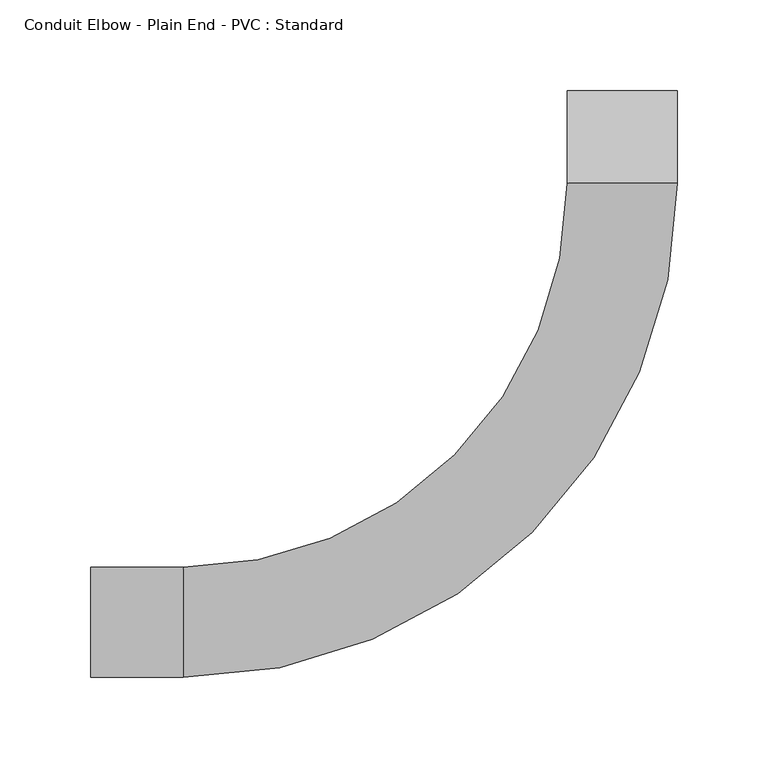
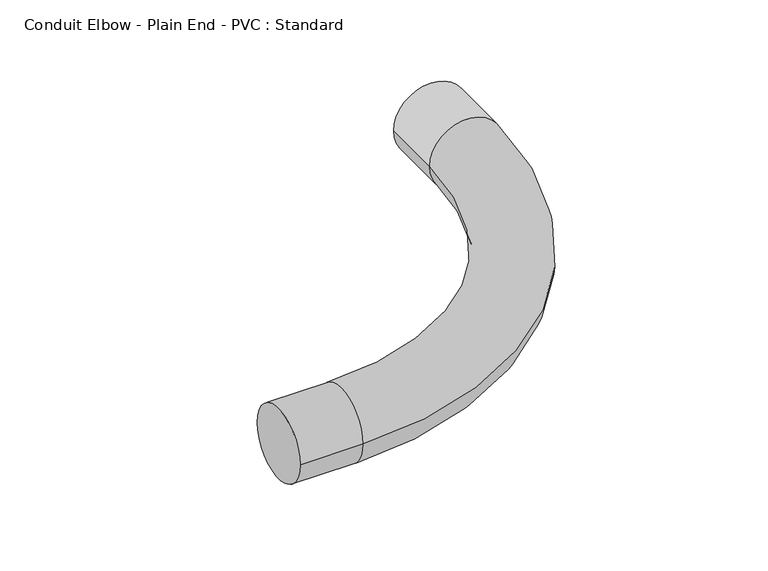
"""IFC4 building model written with IfcOpenShell, lengths in millimetres: cable carrier fitting geometry, Conduit Elbow - Plain End - PVC : Standard."""

from ifc_helpers import new_model, si_unit, point, frame, origin, place, context, project, spatial, circle_curve, ellipse_curve, trimmed, source, transform, mapped, element, save
from ifc_brep_helpers import plane_surface, cylinder_surface, revolved_surface, advanced_brep


def conduit_elbow_plain_end_pvc_standard_9a413171(model_context):
    return source(origin(), model_context, "Body", "AdvancedBrep", [
        advanced_brep(
        [(-292.1, -30.1625, 0.0), (-292.1, 30.1625, 0.0), (-241.3, -30.1625, 0.0), (-241.3, 30.1625, 0.0), (-30.1625, 241.3, 0.0), (30.1625, 241.3, 0.0), (30.1625, 292.1, 0.0), (-30.1625, 292.1, 0.0)],
        [
            (0, 1, circle_curve(frame((-292.1, 0.0, 0.0), z_axis=(-1.0, 0.0, 0.0), x_axis=(0.0, 1.0, 0.0)), 30.1625)),
            (1, 0, circle_curve(frame((-292.1, 0.0, 0.0), z_axis=(-1.0, 0.0, 0.0), x_axis=(0.0, 1.0, 0.0)), 30.1625)),
            (0, 2),
            (2, 3, circle_curve(frame((-241.3, 0.0, 0.0), z_axis=(-1.0, 0.0, 0.0), x_axis=(0.0, 1.0, 0.0)), 30.1625)),
            (3, 1),
            (3, 2, circle_curve(frame((-241.3, 0.0, 0.0), z_axis=(-1.0, 0.0, 0.0), x_axis=(0.0, 1.0, 0.0)), 30.1625)),
            (4, 3, circle_curve(frame((-241.3, 241.3, 0.0), z_axis=(0.0, 0.0, -1.0), x_axis=(0.0, -1.0, 0.0)), 211.1375)),
            (2, 5, circle_curve(frame((-241.3, 241.3, 0.0), z_axis=(0.0, 0.0, 1.0), x_axis=(0.0, -1.0, 0.0)), 271.4625)),
            (5, 4, circle_curve(frame((0.0, 241.3, 0.0), z_axis=(0.0, -1.0, 0.0), x_axis=(-1.0, 0.0, 0.0)), 30.1625)),
            (4, 5, circle_curve(frame((0.0, 241.3, 0.0), z_axis=(0.0, -1.0, 0.0), x_axis=(-1.0, 0.0, 0.0)), 30.1625)),
            (6, 7, circle_curve(frame((0.0, 292.1, 0.0), z_axis=(0.0, 1.0, 0.0), x_axis=(-1.0, 0.0, 0.0)), 30.1625)),
            (7, 6, circle_curve(frame((0.0, 292.1, 0.0), z_axis=(0.0, 1.0, 0.0), x_axis=(-1.0, 0.0, 0.0)), 30.1625)),
            (5, 6),
            (7, 4),
        ],
        [
            plane_surface(frame((-292.1, 0.0, 0.0), z_axis=(-1.0, 0.0, 0.0), x_axis=(0.0, 0.0, 1.0))),
            cylinder_surface(frame((-292.1, 0.0, 0.0), z_axis=(-1.0, 0.0, 0.0), x_axis=(0.0, 1.0, 0.0)), 30.1625),
            revolved_surface(trimmed(ellipse_curve(frame((-241.3, 0.0, 0.0), z_axis=(-1.0, 0.0, 0.0), x_axis=(0.0, 1.0, 0.0)), 30.1625, 30.1625), [point((-241.3, -30.1625, 0.0))], [point((-241.3, 30.1625, 0.0))], True, "CARTESIAN"), (-241.3, 241.3, 0.0), (0.0, 0.0, 1.0)),
            revolved_surface(trimmed(ellipse_curve(frame((-241.3, 0.0, 0.0), z_axis=(-1.0, 0.0, 0.0), x_axis=(0.0, 1.0, 0.0)), 30.1625, 30.1625), [point((-241.3, 30.1625, 0.0))], [point((-241.3, -30.1625, 0.0))], True, "CARTESIAN"), (-241.3, 241.3, 0.0), (0.0, 0.0, 1.0)),
            plane_surface(frame((0.0, 292.1, 0.0), z_axis=(0.0, 1.0, 0.0), x_axis=(0.0, 0.0, 1.0))),
            cylinder_surface(frame((0.0, 241.3, 0.0), z_axis=(0.0, -1.0, 0.0), x_axis=(-1.0, 0.0, 0.0)), 30.1625),
        ],
        [
            (0, [[1, 2]]),
            (1, [[-1, 3, 4, 5]]),
            (1, [[-2, -5, 6, -3]]),
            (2, [[7, -4, 8, 9]]),
            (3, [[-8, -6, -7, 10]]),
            (4, [[11, 12]]),
            (5, [[-9, 13, -12, 14]]),
            (5, [[-10, -14, -11, -13]]),
        ],
    ),
    ])


if __name__ == "__main__":
    model = new_model("IFC4")
    model_context = context("Model", 3, world=origin())
    ifc_project = project(units=[si_unit("LENGTHUNIT", "METRE", prefix="MILLI")], contexts=[model_context])
    site = spatial("IfcSite", under=ifc_project)
    building = spatial("IfcBuilding", under=site)
    placement = place(None, origin())
    conduit_elbow_plain_end_pvc_standard_shape = conduit_elbow_plain_end_pvc_standard_9a413171(model_context)
    element("IfcCableCarrierFitting", 1, ObjectType="Conduit Elbow - Plain End - PVC : Standard", at=placement, inside=building, context=model_context, shape_type="MappedRepresentation", body=[
        mapped(conduit_elbow_plain_end_pvc_standard_shape, transform((0.0, 0.0, 0.0), x_axis=(1.0, 0.0, 0.0), y_axis=(0.0, 1.0, 0.0), z_axis=(0.0, 0.0, 1.0))),
    ])
    save(model, "model.ifc")
